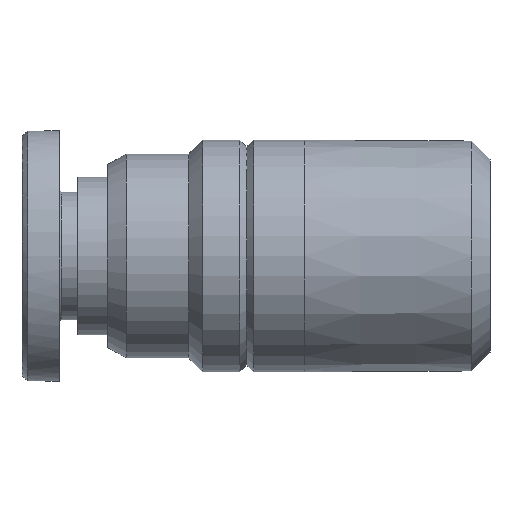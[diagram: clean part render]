
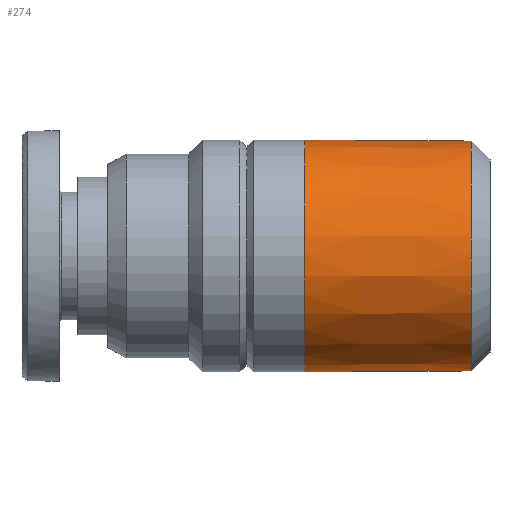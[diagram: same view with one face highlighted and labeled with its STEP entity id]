
A CAD part, top view. The second image highlights one B-rep face of the part: STEP entity #274.
In plain terms, the highlighted conical face has half-angle 0.304 degrees and reference radius 4.979 mm.
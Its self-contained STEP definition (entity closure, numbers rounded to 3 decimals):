
#200=CARTESIAN_POINT('',(8.5,5.,0.0));
#201=VERTEX_POINT('',#200);
#202=CARTESIAN_POINT('',(8.5,0.,0.0));
#203=DIRECTION('',(1.0,0.0,0.0));
#204=DIRECTION('',(0.0,1.0,0.0));
#205=AXIS2_PLACEMENT_3D('',#202,#203,#204);
#206=CIRCLE('',#205,5.);
#207=EDGE_CURVE('',#201,#201,#206,.T.);
#220=CARTESIAN_POINT('',(15.7,4.962,0.));
#221=VERTEX_POINT('',#220);
#222=CARTESIAN_POINT('',(15.7,0.0,0.));
#223=DIRECTION('',(1.0,0.0,0.0));
#224=DIRECTION('',(0.0,-1.0,0.0));
#225=AXIS2_PLACEMENT_3D('',#222,#223,#224);
#226=CIRCLE('',#225,4.962);
#227=EDGE_CURVE('',#221,#221,#226,.T.);
#263=CARTESIAN_POINT('',(12.5,0.,0.0));
#264=DIRECTION('',(-1.0,0.,0.0));
#265=DIRECTION('',(0.0,1.0,0.0));
#266=AXIS2_PLACEMENT_3D('',#263,#264,#265);
#267=CONICAL_SURFACE('',#266,4.979,0.304);
#268=ORIENTED_EDGE('',*,*,#207,.T.);
#269=EDGE_LOOP('',(#268));
#270=FACE_OUTER_BOUND('',#269,.T.);
#271=ORIENTED_EDGE('',*,*,#227,.F.);
#272=EDGE_LOOP('',(#271));
#273=FACE_BOUND('',#272,.T.);
#274=ADVANCED_FACE('',(#270,#273),#267,.T.);
